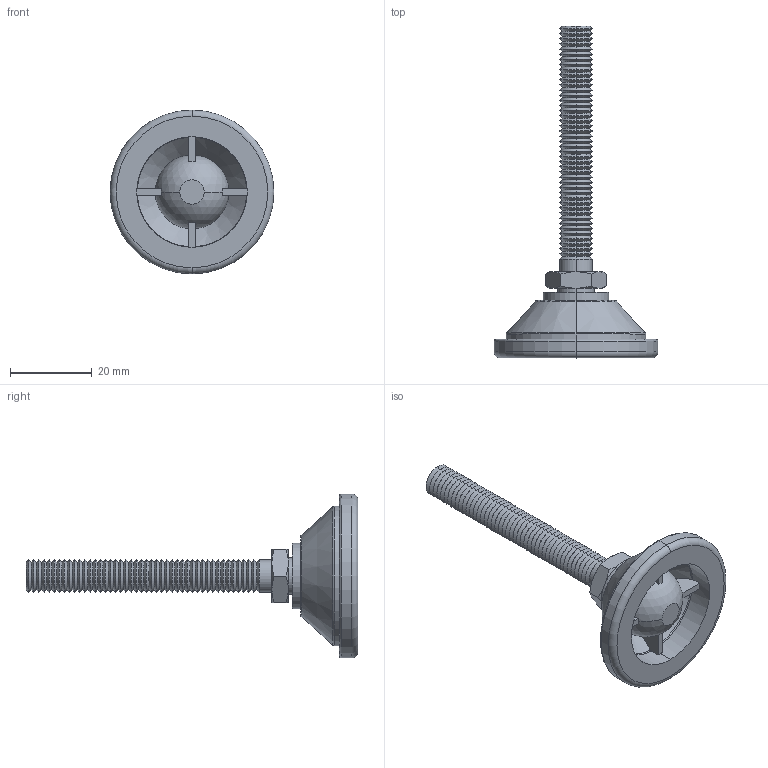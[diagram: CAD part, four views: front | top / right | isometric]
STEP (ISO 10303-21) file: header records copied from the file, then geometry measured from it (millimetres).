
FILE_DESCRIPTION (( 'STEP AP203' ), '1' );
FILE_NAME ('34741.W0084.step', '2016-09-22T07:38:44', ( 'User' ), ( '' ), 'SwSTEP 2.0', 'SolidWorks 2009', '' );
FILE_SCHEMA (( 'CONFIG_CONTROL_DESIGN' ));
Length unit declared in the file: millimetre
Products named in the file (3): Part1_34741.W0084; Part2_34741.W0084; 34741.W0084
Assembly tree (2 placements, depth 2):
  34741.W0084
    Part1_34741.W0084
    Part2_34741.W0084
Bounding box: 40 x 81 x 40 mm (x, y, z)
Volume: 11756 mm3; surface area: 8298.6 mm2
Topology: 2 solids, 2 shells, 260 faces, 556 edges, 302 vertices
Faces by surface type: cone 202, plane 26, cylinder 14, torus 12, sphere 6
Entity records: 7237 total; most frequent: DIRECTION 1322, CARTESIAN_POINT 1309, ORIENTED_EDGE 1094, AXIS2_PLACEMENT_3D 550, EDGE_CURVE 547, VERTEX_POINT 297, CIRCLE 285, EDGE_LOOP 266
